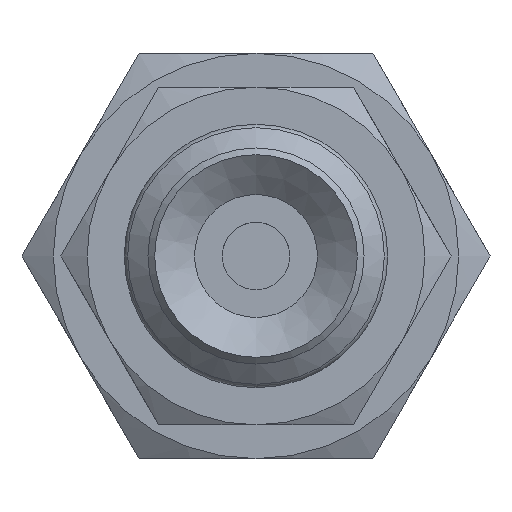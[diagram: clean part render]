
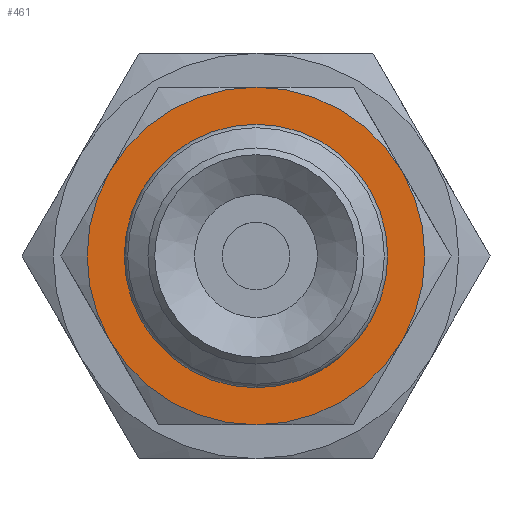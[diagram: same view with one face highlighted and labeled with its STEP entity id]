
A CAD part, front view. The second image highlights one B-rep face of the part: STEP entity #461.
In plain terms, the highlighted planar face has unit normal (0, -1, 0).
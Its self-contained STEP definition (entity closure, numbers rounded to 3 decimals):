
#461=ADVANCED_FACE('',(#666,#667),#668,.T.);
#666=FACE_BOUND('',#959,.T.);
#667=FACE_OUTER_BOUND('',#960,.T.);
#668=PLANE('',#961);
#959=EDGE_LOOP('',(#1544));
#960=EDGE_LOOP('',(#1545,#1546,#1547,#1548,#1549,#1550));
#961=AXIS2_PLACEMENT_3D('',#1551,#1552,#1553);
#1544=ORIENTED_EDGE('',*,*,#2023,.F.);
#1545=ORIENTED_EDGE('',*,*,#2022,.T.);
#1546=ORIENTED_EDGE('',*,*,#2024,.T.);
#1547=ORIENTED_EDGE('',*,*,#2025,.T.);
#1548=ORIENTED_EDGE('',*,*,#1978,.T.);
#1549=ORIENTED_EDGE('',*,*,#2008,.T.);
#1550=ORIENTED_EDGE('',*,*,#1991,.T.);
#1551=CARTESIAN_POINT('',(2.0,0.,0.0));
#1552=DIRECTION('',(0.0,-1.0,0.0));
#1553=DIRECTION('',(0.0,0.0,-1.0));
#1978=EDGE_CURVE('',#2256,#2248,#2258,.T.);
#1991=EDGE_CURVE('',#2282,#2279,#2283,.T.);
#2008=EDGE_CURVE('',#2248,#2282,#2310,.T.);
#2022=EDGE_CURVE('',#2279,#2335,#2337,.T.);
#2023=EDGE_CURVE('',#2338,#2338,#2339,.T.);
#2024=EDGE_CURVE('',#2335,#2340,#2341,.T.);
#2025=EDGE_CURVE('',#2340,#2256,#2342,.T.);
#2248=VERTEX_POINT('',#2894);
#2256=VERTEX_POINT('',#2910);
#2258=CIRCLE('',#2914,5.0);
#2279=VERTEX_POINT('',#2946);
#2282=VERTEX_POINT('',#2951);
#2283=CIRCLE('',#2952,5.0);
#2310=CIRCLE('',#2997,5.0);
#2335=VERTEX_POINT('',#3040);
#2337=CIRCLE('',#3044,5.0);
#2338=VERTEX_POINT('',#3045);
#2339=CIRCLE('',#3046,2.0);
#2340=VERTEX_POINT('',#3047);
#2341=CIRCLE('',#3048,5.0);
#2342=CIRCLE('',#3049,5.0);
#2894=CARTESIAN_POINT('',(-4.33,0.,2.5));
#2910=CARTESIAN_POINT('',(0.0,0.,5.0));
#2914=AXIS2_PLACEMENT_3D('',#3355,#3356,#3357);
#2946=CARTESIAN_POINT('',(0.0,0.,-5.0));
#2951=CARTESIAN_POINT('',(-4.33,0.,-2.5));
#2952=AXIS2_PLACEMENT_3D('',#3374,#3375,#3376);
#2997=AXIS2_PLACEMENT_3D('',#3394,#3395,#3396);
#3040=CARTESIAN_POINT('',(4.33,0.,-2.5));
#3044=AXIS2_PLACEMENT_3D('',#3419,#3420,#3421);
#3045=CARTESIAN_POINT('',(0.0,0.,-2.0));
#3046=AXIS2_PLACEMENT_3D('',#3422,#3423,#3424);
#3047=CARTESIAN_POINT('',(4.33,0.,2.5));
#3048=AXIS2_PLACEMENT_3D('',#3425,#3426,#3427);
#3049=AXIS2_PLACEMENT_3D('',#3428,#3429,#3430);
#3355=CARTESIAN_POINT('',(0.0,0.,0.0));
#3356=DIRECTION('',(0.0,-1.0,0.0));
#3357=DIRECTION('',(0.0,0.0,-1.0));
#3374=CARTESIAN_POINT('',(0.0,0.,0.0));
#3375=DIRECTION('',(0.0,-1.0,0.0));
#3376=DIRECTION('',(0.0,0.0,-1.0));
#3394=CARTESIAN_POINT('',(0.0,0.,0.0));
#3395=DIRECTION('',(0.0,-1.0,0.0));
#3396=DIRECTION('',(0.0,0.0,-1.0));
#3419=CARTESIAN_POINT('',(0.0,0.,0.0));
#3420=DIRECTION('',(0.0,-1.0,0.0));
#3421=DIRECTION('',(0.0,0.0,-1.0));
#3422=CARTESIAN_POINT('',(0.0,0.,0.0));
#3423=DIRECTION('',(0.0,-1.0,0.0));
#3424=DIRECTION('',(0.0,0.0,-1.0));
#3425=CARTESIAN_POINT('',(0.0,0.,0.0));
#3426=DIRECTION('',(0.0,-1.0,0.0));
#3427=DIRECTION('',(0.0,0.0,-1.0));
#3428=CARTESIAN_POINT('',(0.0,0.,0.0));
#3429=DIRECTION('',(0.0,-1.0,0.0));
#3430=DIRECTION('',(0.0,0.0,-1.0));
